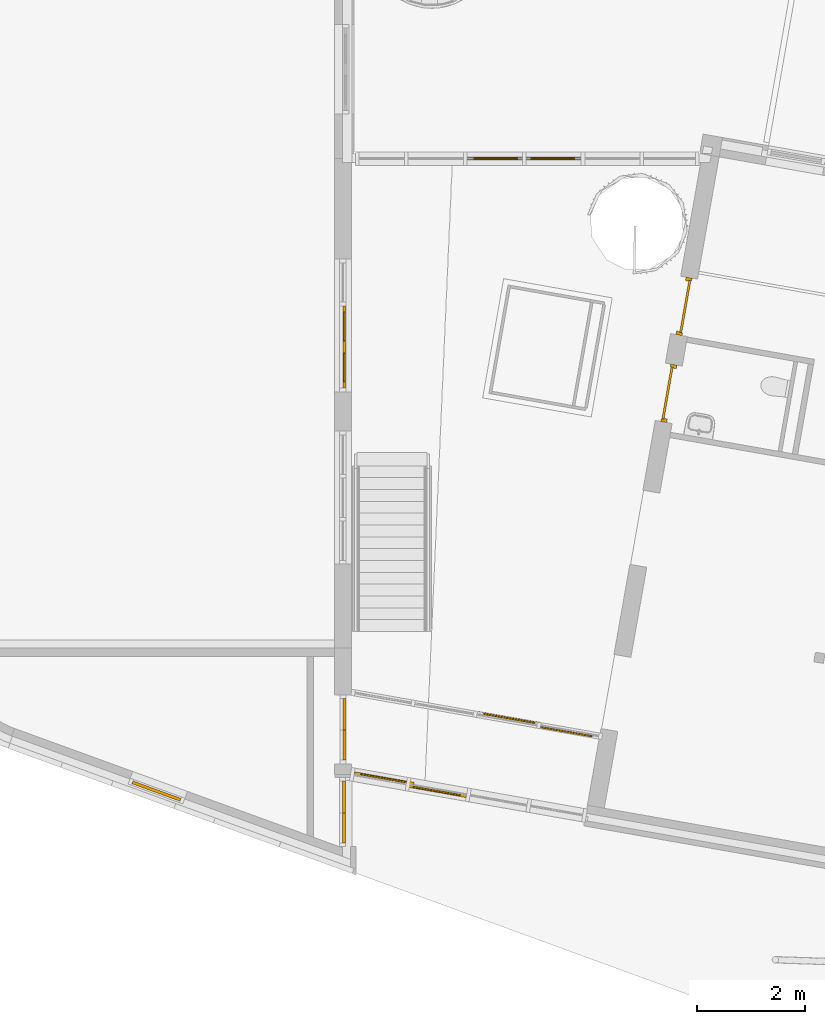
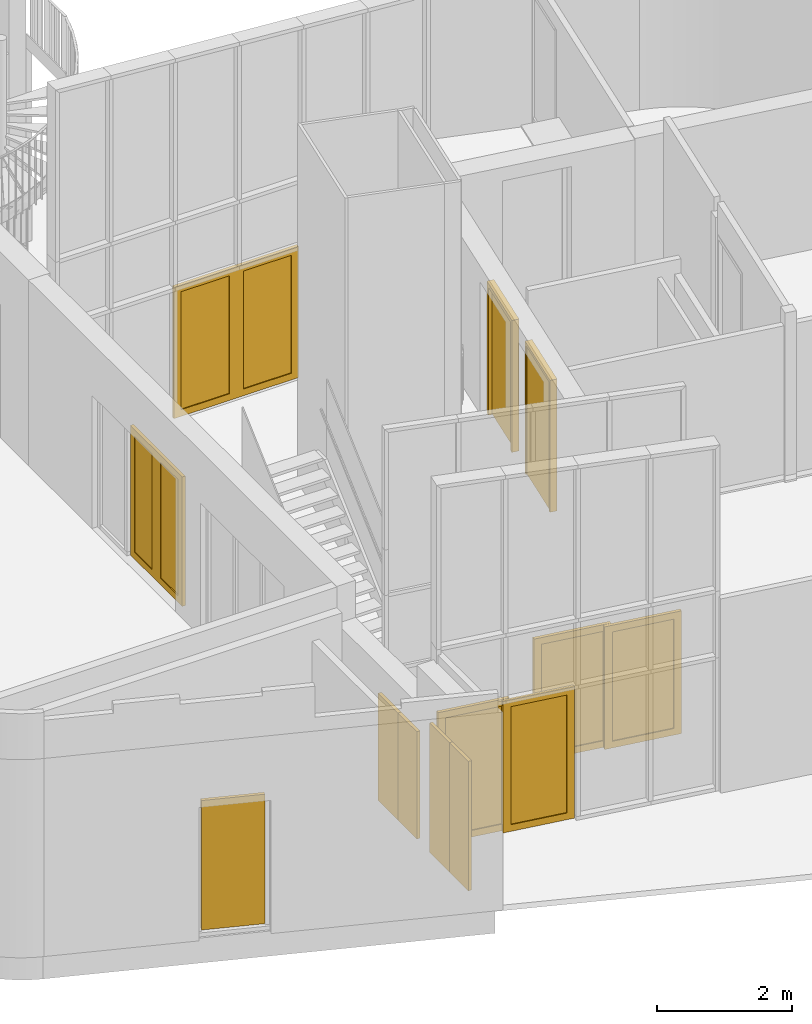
# One storey, part 17 of 21: 13 doors, 8 windows, 7 elements without a shape of their own.
"""IFC2X3 building model written with IfcOpenShell, lengths in millimetres."""

from ifc_helpers import new_model, entity, si_unit, converted_unit, derived_unit, direction, frame, frame_2d, origin, origin_2d_with_axis, place, context, subcontext, project, spatial, polyline, rectangle, outline, extrude, faceted_brep, source, transform, mapped, material, type_object, type_shapes, element, aggregate, save


model = new_model("IFC2X3")

# Units and contexts
model_context = context("Model", 3, precision=0.01, world=origin(), true_north=direction((6.12303176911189e-17, 1.0)))
body_context = subcontext(model_context, "Body", "Model", "MODEL_VIEW")
ifc_project = project(units=[si_unit("LENGTHUNIT", "METRE", prefix="MILLI"), si_unit("AREAUNIT", "SQUARE_METRE"), si_unit("VOLUMEUNIT", "CUBIC_METRE"), converted_unit("PLANEANGLEUNIT", "DEGREE", entity("IfcRatioMeasure", 0.0174532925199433), si_unit("PLANEANGLEUNIT", "RADIAN"), dimensions=[0, 0, 0, 0, 0, 0, 0]), si_unit("MASSUNIT", "GRAM", prefix="KILO"), derived_unit("MASSDENSITYUNIT", [(si_unit("MASSUNIT", "GRAM", prefix="KILO"), 1), (si_unit("LENGTHUNIT", "METRE"), -3)]), si_unit("TIMEUNIT", "SECOND"), si_unit("FREQUENCYUNIT", "HERTZ"), si_unit("THERMODYNAMICTEMPERATUREUNIT", "DEGREE_CELSIUS"), derived_unit("THERMALTRANSMITTANCEUNIT", [(si_unit("MASSUNIT", "GRAM", prefix="KILO"), 1), (si_unit("THERMODYNAMICTEMPERATUREUNIT", "KELVIN"), -1), (si_unit("TIMEUNIT", "SECOND"), -3)]), derived_unit("VOLUMETRICFLOWRATEUNIT", [(si_unit("LENGTHUNIT", "METRE"), 3), (si_unit("TIMEUNIT", "SECOND"), -1)]), si_unit("ELECTRICCURRENTUNIT", "AMPERE"), si_unit("ELECTRICVOLTAGEUNIT", "VOLT"), si_unit("POWERUNIT", "WATT"), si_unit("FORCEUNIT", "NEWTON", prefix="KILO"), si_unit("ILLUMINANCEUNIT", "LUX"), si_unit("LUMINOUSFLUXUNIT", "LUMEN"), si_unit("LUMINOUSINTENSITYUNIT", "CANDELA"), derived_unit("USERDEFINED", [(si_unit("MASSUNIT", "GRAM", prefix="KILO"), -1), (si_unit("LENGTHUNIT", "METRE"), -2), (si_unit("TIMEUNIT", "SECOND"), 3), (si_unit("LUMINOUSFLUXUNIT", "LUMEN"), 1)]), derived_unit("LINEARVELOCITYUNIT", [(si_unit("LENGTHUNIT", "METRE"), 1), (si_unit("TIMEUNIT", "SECOND"), -1)]), si_unit("PRESSUREUNIT", "PASCAL"), derived_unit("USERDEFINED", [(si_unit("LENGTHUNIT", "METRE"), -2), (si_unit("MASSUNIT", "GRAM", prefix="KILO"), 1), (si_unit("TIMEUNIT", "SECOND"), -2)])], contexts=[model_context])

# Site, building, storey
site_placement = place(None, origin())
site = spatial("IfcSite", under=ifc_project, at=site_placement, Name="<Kadaster Gemeente>;<Kadaster nummer>;<Kadaster sectie>", CompositionType="ELEMENT")
building_placement = place(site_placement, origin())
building = spatial("IfcBuilding", under=site, at=building_placement, Name="JRCZ Middelburg", CompositionType="ELEMENT")
storey_placement = place(building_placement, origin())
storey = spatial("IfcBuildingStorey", under=building, at=storey_placement, Name="00 begane grond", CompositionType="ELEMENT", Elevation=0.0)

# Curtain wall, door
curtain_wall_type_1 = type_object("IfcCurtainWallType", Name="Curtain Wall:vliesgevel B", PredefinedType="NOTDEFINED")
curtain_wall_1_placement = place(storey_placement, origin())
curtain_wall_1 = element("IfcCurtainWall", 1, at=curtain_wall_1_placement, inside=storey, type_object=curtain_wall_type_1, Name="Curtain Wall:vliesgevel B", ObjectType="Curtain Wall:vliesgevel B")
ifc_material_1 = material(Name="RBM_i2_binnenkozijn")
door_style_1 = type_object("IfcDoorStyle", Name="binnendeur", ConstructionType="NOTDEFINED", OperationType="NOTDEFINED", ParameterTakesPrecedence=False, Sizeable=False, material=ifc_material_1)
shared_shape_1 = source(origin(), body_context, "Body", "SweptSolid", [
    extrude(outline(polyline([(-604.505228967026, -1105.58333333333), (604.505228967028, -1105.58333333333), (604.505228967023, 1105.58333333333), (-604.505228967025, 1105.58333333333), (-604.505228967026, -1105.58333333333)]), holes=[polyline([(-484.505228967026, -985.583333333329), (-484.505228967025, 985.583333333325), (484.505228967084, 985.583333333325), (484.505228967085, -985.58333333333), (-484.505228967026, -985.583333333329)])]), frame((544.50522896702, -54.0, 1105.58333333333), z_axis=(0.0, 1.0, 0.0), x_axis=(1.0, 0.0, 0.0)), (0.0, 0.0, 1.0), 27.0),
    extrude(outline(polyline([(-604.505228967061, -1105.58333333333), (604.505228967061, -1105.58333333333), (604.505228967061, 1105.58333333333), (-604.505228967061, 1105.58333333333), (-604.505228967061, -1105.58333333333)]), holes=[polyline([(-484.50522896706, -985.583333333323), (-484.50522896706, 985.58333333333), (484.505228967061, 985.583333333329), (484.505228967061, -985.583333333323), (-484.50522896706, -985.583333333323)])]), frame((-544.505228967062, 6.0, 1105.58333333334), z_axis=(0.0, 1.0, 0.0), x_axis=(1.0, 0.0, 0.0)), (0.0, 0.0, 1.0), 27.0),
    extrude(outline(polyline([(-604.505228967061, -1105.58333333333), (604.505228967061, -1105.58333333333), (604.505228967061, 1105.58333333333), (-604.505228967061, 1105.58333333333), (-604.505228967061, -1105.58333333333)]), holes=[polyline([(-484.50522896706, -985.583333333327), (-484.50522896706, 985.583333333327), (484.505228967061, 985.583333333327), (484.505228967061, -985.583333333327), (-484.50522896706, -985.583333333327)])]), frame((-544.505228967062, 33.0, 1105.58333333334), z_axis=(0.0, 1.0, 0.0), x_axis=(1.0, 0.0, 0.0)), (0.0, 0.0, 1.0), 27.0000000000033),
    extrude(outline(polyline([(-604.505228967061, -1105.58333333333), (604.505228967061, -1105.58333333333), (604.505228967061, 1105.58333333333), (-604.505228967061, 1105.58333333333), (-604.505228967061, -1105.58333333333)]), holes=[polyline([(-484.505228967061, -985.583333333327), (-484.505228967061, 985.583333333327), (484.505228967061, 985.583333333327), (484.505228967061, -985.583333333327), (-484.505228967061, -985.583333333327)])]), frame((544.505228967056, -27.0, 1105.58333333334), z_axis=(0.0, 1.0, 0.0), x_axis=(1.0, 0.0, 0.0)), (0.0, 0.0, 1.0), 26.9999999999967),
])
type_shapes(door_style_1, [shared_shape_1])
door_1_placement = place(curtain_wall_1_placement, frame((20829.4661139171, 8567.01360204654, 0.0), z_axis=(0.0, 0.0, 1.0), x_axis=(0.984807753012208, -0.173648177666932, 0.0)))
door_1 = element("IfcDoor", 2, at=door_1_placement, type_object=door_style_1, material=ifc_material_1, Name="31_DO_schuifdeur_1:binnendeur", ObjectType="31_DO_schuifdeur_1:binnendeur", OverallHeight=2211.16666666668, OverallWidth=2298.02091586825, context=body_context, shape_type="MappedRepresentation", body=[
    mapped(shared_shape_1, transform((0.0, 0.0, 0.0), scale=1.0)),
])
aggregate(curtain_wall_1, [door_1])

curtain_wall_type_2 = type_object("IfcCurtainWallType", Name="Curtain Wall:NLRS_32_CW_067x114", PredefinedType="NOTDEFINED")
curtain_wall_2_placement = place(storey_placement, origin())
curtain_wall_2 = element("IfcCurtainWall", 3, at=curtain_wall_2_placement, inside=storey, type_object=curtain_wall_type_2, Name="Curtain Wall:NLRS_32_CW_067x114", ObjectType="Curtain Wall:NLRS_32_CW_067x114")
door_style_2 = type_object("IfcDoorStyle", Name="0std binnendeur", ConstructionType="NOTDEFINED", OperationType="NOTDEFINED", ParameterTakesPrecedence=False, Sizeable=False)
shared_shape_2 = source(origin(), body_context, "Body", "SweptSolid", [
    extrude(outline(polyline([(-383.249999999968, -1166.5), (383.249999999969, -1166.5), (383.249999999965, 1166.5), (-383.249999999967, 1166.5), (-383.249999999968, -1166.5)]), holes=[polyline([(-263.249999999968, -1046.49999999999), (-263.249999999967, 1046.49999999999), (263.250000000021, 1046.49999999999), (263.250000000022, -1046.49999999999), (-263.249999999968, -1046.49999999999)])]), frame((383.25000015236, -54.0, 1166.5), z_axis=(0.0, 1.0, 0.0), x_axis=(1.0, 0.0, 0.0)), (0.0, 0.0, 1.0), 27.0),
    extrude(outline(polyline([(-383.250000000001, -1166.5), (383.25, -1166.5), (383.250000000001, 1166.5), (-383.25, 1166.5), (-383.250000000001, -1166.5)]), holes=[polyline([(-263.250000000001, -1046.49999999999), (-263.25, 1046.5), (263.250000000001, 1046.5), (263.25, -1046.49999999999), (-263.250000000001, -1046.49999999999)])]), frame((-383.250000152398, -54.0, 1166.5), z_axis=(0.0, 1.0, 0.0), x_axis=(1.0, 0.0, 0.0)), (0.0, 0.0, 1.0), 27.0),
    extrude(outline(polyline([(-383.250000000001, -1166.5), (383.25, -1166.5), (383.250000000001, 1166.5), (-383.25, 1166.5), (-383.250000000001, -1166.5)]), holes=[polyline([(-263.250000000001, -1046.49999999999), (-263.25, 1046.49999999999), (263.250000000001, 1046.49999999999), (263.25, -1046.49999999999), (-263.250000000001, -1046.49999999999)])]), frame((-383.250000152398, -27.0, 1166.5), z_axis=(0.0, 1.0, 0.0), x_axis=(1.0, 0.0, 0.0)), (0.0, 0.0, 1.0), 27.0000000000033),
    extrude(outline(polyline([(-383.250000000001, -1166.5), (383.25, -1166.5), (383.250000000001, 1166.5), (-383.25, 1166.5), (-383.250000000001, -1166.5)]), holes=[polyline([(-263.250000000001, -1046.49999999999), (-263.25, 1046.49999999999), (263.250000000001, 1046.49999999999), (263.250000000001, -1046.49999999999), (-263.250000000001, -1046.49999999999)])]), frame((383.250000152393, -27.0, 1166.5), z_axis=(0.0, 1.0, 0.0), x_axis=(1.0, 0.0, 0.0)), (0.0, 0.0, 1.0), 26.9999999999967),
])
type_shapes(door_style_2, [shared_shape_2])
door_2_placement = place(curtain_wall_2_placement, frame((17203.0, 15600.0, 0.0), z_axis=(0.0, 0.0, 1.0), x_axis=(0.0, 1.0, 0.0)))
door_2 = element("IfcDoor", 4, at=door_2_placement, type_object=door_style_2, Name="31_DO_stolpdeur_1:0std binnendeur", ObjectType="31_DO_stolpdeur_1:0std binnendeur", OverallHeight=2333.00000000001, OverallWidth=1533.00000030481, context=body_context, shape_type="MappedRepresentation", body=[
    mapped(shared_shape_2, transform((0.0, 0.0, 0.0), scale=1.0)),
])
aggregate(curtain_wall_2, [door_2])

# Windows
ifc_material_2 = material(Name="o1_glas")
window_style_1 = type_object("IfcWindowStyle", Name="glas 2", ConstructionType="NOTDEFINED", OperationType="NOTDEFINED", ParameterTakesPrecedence=False, Sizeable=False, material=ifc_material_2)
shared_shape_3 = source(origin(), body_context, "Body", "SweptSolid", [
    extrude(rectangle(XDim=526.500000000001, YDim=24.0000000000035, at=origin_2d_with_axis()), origin(), (0.0, 0.0, 1.0), 2092.99999999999),
])
type_shapes(window_style_1, [shared_shape_3])
for number, where, z_axis, x_axis, name in (
    (5, (17230.0, 15983.25, 120.0), (0.0, 0.0, 1.0), (0.0, 1.0, 0.0), "WI_subvak:glas 2"),
    (6, (17230.0, 15216.7499996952, 120.0), (0.0, 0.0, 1.0), (0.0, 1.0, 0.0), "WI_subvak:glas 2"),
):
    element("IfcWindow", number, at=place(storey_placement, frame(where, z_axis=z_axis, x_axis=x_axis)), inside=storey, type_object=window_style_1, material=ifc_material_2, Name=name, ObjectType="WI_subvak:glas 2", OverallHeight=2172.99999999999, OverallWidth=526.500000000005, context=body_context, shape_type="MappedRepresentation", body=[
        mapped(shared_shape_3, transform((0.0, 0.0, 0.0), scale=1.0)),
    ])

# Doors
door_style_3 = type_object("IfcDoorStyle", Name="enkele deur_gen", ConstructionType="USERDEFINED", OperationType="NOTDEFINED", ParameterTakesPrecedence=False, Sizeable=False)
shared_shape_4 = source(origin(), body_context, "Body", "Brep", [
    faceted_brep([(492.0, 0.0, 0.0), (492.0, 54.0, 0.0), (475.0, 54.0, 0.0), (475.0, 114.0, 0.0), (542.0, 114.0, 0.0), (542.0, 0.0, 0.0), (492.0, 0.0, 2327.0), (492.0, 54.0, 2327.0), (492.0, 54.0, 2310.0), (475.0, 54.0, 2310.0), (475.0, 114.0, 2310.0), (542.0, 114.0, 2310.0), (542.0, 54.0, 2310.0), (542.0, 54.0, 2327.0), (542.0, 0.0, 2327.0)], [[[0, 1, 2, 3, 4, 5]], [[6, 7, 8, 1, 0]], [[2, 1, 8, 9]], [[3, 2, 9, 10]], [[4, 3, 10, 11]], [[5, 4, 11, 12, 13, 14]], [[14, 6, 0, 5]], [[6, 14, 13, 7]], [[8, 12, 11, 10, 9]], [[12, 8, 7, 13]]]),
    faceted_brep([(-542.0, 0.0, 2327.0), (-542.0, 0.0, 2377.0), (-542.0, 114.0, 2377.0), (-542.0, 114.0, 2310.0), (-542.0, 54.0, 2310.0), (-542.0, 54.0, 2327.0), (542.0, 0.0, 2327.0), (542.0, 54.0, 2327.0), (542.0, 54.0, 2310.0), (542.0, 114.0, 2310.0), (542.0, 114.0, 2377.0), (542.0, 0.0, 2377.0)], [[[0, 1, 2, 3, 4, 5]], [[6, 7, 8, 9, 10, 11]], [[5, 7, 6, 0]], [[4, 8, 7, 5]], [[3, 9, 8, 4]], [[2, 10, 9, 3]], [[1, 11, 10, 2]], [[0, 6, 11, 1]]]),
    faceted_brep([(-492.0, 0.0, 0.0), (-542.0, 0.0, 0.0), (-542.0, 114.0, 0.0), (-475.0, 114.0, 0.0), (-475.0, 54.0, 0.0), (-492.0, 54.0, 0.0), (-492.0, 0.0, 2327.0), (-492.0, 54.0, 2310.0), (-492.0, 54.0, 2327.0), (-475.0, 54.0, 2310.0), (-475.0, 114.0, 2310.0), (-542.0, 114.0, 2310.0), (-542.0, 0.0, 2327.0), (-542.0, 54.0, 2327.0), (-542.0, 54.0, 2310.0)], [[[0, 1, 2, 3, 4, 5]], [[6, 0, 5, 7, 8]], [[4, 9, 7, 5]], [[3, 10, 9, 4]], [[2, 11, 10, 3]], [[1, 12, 13, 14, 11, 2]], [[12, 1, 0, 6]], [[6, 8, 13, 12]], [[7, 9, 10, 11, 14]], [[14, 13, 8, 7]]]),
])
type_shapes(door_style_3, [shared_shape_4])
for number, where, z_axis, x_axis in (
    (7, (23605.4826461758, 16346.1458893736, 0.0), (0.0, 0.0, 1.0), (0.17364817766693, 0.984807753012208, 0.0)),
    (8, (23208.0842545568, 14748.8874509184, 0.0), (0.0, 0.0, 1.0), (-0.17364817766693, -0.984807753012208, 0.0)),
):
    element("IfcDoor", number, at=place(storey_placement, frame(where, z_axis=z_axis, x_axis=x_axis)), inside=storey, type_object=door_style_3, Name="NLRS_32_DO_UN_samenstelling binnenkozijn hout-SH_generiek_ISR:enkele deur_gen", ObjectType="NLRS_32_DO_UN_samenstelling binnenkozijn hout-SH_generiek_ISR:enkele deur_gen", OverallHeight=2377.00000000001, OverallWidth=1084.0, context=body_context, shape_type="MappedRepresentation", body=[
        mapped(shared_shape_4, transform((0.0, 0.0, 0.0), scale=1.0)),
    ])
door_style_4 = type_object("IfcDoorStyle", Name="dichte deur_gen", ConstructionType="USERDEFINED", OperationType="NOTDEFINED", ParameterTakesPrecedence=False, Sizeable=False)
shared_shape_5 = source(origin(), body_context, "Body", "SweptSolid", [
    extrude(rectangle(XDim=979.999999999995, YDim=40.0, at=origin_2d_with_axis()), frame((0.0, 20.0, 0.0), z_axis=(0.0, 0.0, 1.0), x_axis=(-1.0, 0.0, 0.0)), (0.0, 0.0, 1.0), 2315.0),
])
type_shapes(door_style_4, [shared_shape_5])
for number, where, z_axis, x_axis in (
    (9, (23591.6953376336, 16348.5769638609, 10.0), (0.0, 0.0, 1.0), (0.17364817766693, 0.984807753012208, 0.0)),
    (10, (23221.871563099, 14746.456376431, 10.0), (0.0, 0.0, 1.0), (-0.17364817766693, -0.984807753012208, 0.0)),
):
    element("IfcDoor", number, at=place(storey_placement, frame(where, z_axis=z_axis, x_axis=x_axis)), inside=storey, type_object=door_style_4, Name="NLRS_32_DO_ISR_onderdeel deur-SH_generiek_ISR:dichte deur_gen", ObjectType="NLRS_32_DO_ISR_onderdeel deur-SH_generiek_ISR:dichte deur_gen", OverallHeight=2315.0, OverallWidth=980.000000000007, context=body_context, shape_type="MappedRepresentation", body=[
        mapped(shared_shape_5, transform((0.0, 0.0, 0.0), scale=1.0)),
    ])

# Curtain wall, doors
curtain_wall_3_placement = place(storey_placement, origin())
curtain_wall_3 = element("IfcCurtainWall", 11, at=curtain_wall_3_placement, inside=storey, type_object=curtain_wall_type_2, Name="Curtain Wall:NLRS_32_CW_067x114", ObjectType="Curtain Wall:NLRS_32_CW_067x114")
door_style_5 = type_object("IfcDoorStyle", Name="binnendeur", ConstructionType="NOTDEFINED", OperationType="NOTDEFINED", ParameterTakesPrecedence=False, Sizeable=False)
shared_shape_6 = source(origin(), body_context, "Body", "SweptSolid", [
    extrude(rectangle(XDim=557.549538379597, YDim=26.9999999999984, at=frame_2d((0.0, -1.77635683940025e-15), x_axis=(1.0, 0.0))), frame((0.0, -40.4999999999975, 0.0), z_axis=(0.0, 0.0, 1.0), x_axis=(-1.0, 0.0, 0.0)), (0.0, 0.0, 1.0), 1933.00000000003),
    extrude(rectangle(XDim=557.549538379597, YDim=26.9999999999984, at=origin_2d_with_axis()), frame((0.0, -13.4999999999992, 0.0), z_axis=(0.0, 0.0, 1.0), x_axis=(-1.0, 0.0, 0.0)), (0.0, 0.0, 1.0), 1933.00000000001),
])
type_shapes(door_style_5, [shared_shape_6])
door_3_placement = place(curtain_wall_3_placement, frame((17209.2500000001, 8194.51555521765, 0.0), z_axis=(0.0, 0.0, 1.0), x_axis=(0.0, 1.0, 0.0)))
door_3 = element("IfcDoor", 12, at=door_3_placement, type_object=door_style_5, Name="31_DO_deur_0:binnendeur", ObjectType="31_DO_deur_0:binnendeur", OverallHeight=1933.00000000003, OverallWidth=557.549538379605, context=body_context, shape_type="MappedRepresentation", body=[
    mapped(shared_shape_6, transform((0.0, 0.0, 0.0), scale=1.0)),
])
door_style_6 = type_object("IfcDoorStyle", Name="binnendeur", ConstructionType="NOTDEFINED", OperationType="NOTDEFINED", ParameterTakesPrecedence=False, Sizeable=False)
shared_shape_7 = source(origin(), body_context, "Body", "SweptSolid", [
    extrude(rectangle(XDim=588.450461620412, YDim=26.9999999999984, at=frame_2d((0.0, -1.77635683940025e-15), x_axis=(1.0, 0.0))), frame((0.0, -40.4999999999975, 0.0), z_axis=(0.0, 0.0, 1.0), x_axis=(-1.0, 0.0, 0.0)), (0.0, 0.0, 1.0), 1933.00000000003),
    extrude(rectangle(XDim=588.450461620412, YDim=26.9999999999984, at=origin_2d_with_axis()), frame((0.0, -13.4999999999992, 0.0), z_axis=(0.0, 0.0, 1.0), x_axis=(-1.0, 0.0, 0.0)), (0.0, 0.0, 1.0), 1933.00000000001),
])
type_shapes(door_style_6, [shared_shape_7])
door_4_placement = place(curtain_wall_3_placement, frame((17209.2500000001, 8767.51555521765, 0.0), z_axis=(0.0, 0.0, 1.0), x_axis=(0.0, 1.0, 0.0)))
door_4 = element("IfcDoor", 13, at=door_4_placement, type_object=door_style_6, Name="31_DO_deur_0:binnendeur", ObjectType="31_DO_deur_0:binnendeur", OverallHeight=1933.00000000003, OverallWidth=588.45046162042, context=body_context, shape_type="MappedRepresentation", body=[
    mapped(shared_shape_7, transform((0.0, 0.0, 0.0), scale=1.0)),
])
aggregate(curtain_wall_3, [door_3, door_4])

# Curtain wall, door
curtain_wall_type_3 = type_object("IfcCurtainWallType", Name="Curtain Wall:Vliesgevel C", PredefinedType="NOTDEFINED")
curtain_wall_4_placement = place(storey_placement, origin())
curtain_wall_4 = element("IfcCurtainWall", 14, at=curtain_wall_4_placement, inside=storey, type_object=curtain_wall_type_3, Name="Curtain Wall:Vliesgevel C", ObjectType="Curtain Wall:Vliesgevel C")
ifc_material_3 = material(Name="RBM_a_kozijn licht")
door_style_7 = type_object("IfcDoorStyle", Name="0std", ConstructionType="NOTDEFINED", OperationType="NOTDEFINED", ParameterTakesPrecedence=False, Sizeable=False, material=ifc_material_3)
shared_shape_8 = source(origin(), body_context, "Body", "SweptSolid", [
    extrude(outline(polyline([(-530.613549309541, -1183.25), (530.613549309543, -1183.25), (530.613549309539, 1183.25), (-530.613549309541, 1183.25), (-530.613549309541, -1183.25)]), holes=[polyline([(-410.613549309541, -1063.25), (-410.61354930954, 1063.24999999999), (410.613549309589, 1063.24999999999), (410.61354930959, -1063.25), (-410.613549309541, -1063.25)])]), frame((530.613549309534, 57.0, 1183.25), z_axis=(0.0, 1.0, 0.0), x_axis=(1.0, 0.0, 0.0)), (0.0, 0.0, 1.0), 27.0),
    extrude(outline(polyline([(-530.613549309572, -1183.25), (530.613549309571, -1183.25), (530.613549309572, 1183.25), (-530.613549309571, 1183.25), (-530.613549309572, -1183.25)]), holes=[polyline([(-410.613549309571, -1063.24999999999), (-410.613549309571, 1063.24999999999), (410.613549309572, 1063.25), (410.613549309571, -1063.24999999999), (-410.613549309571, -1063.24999999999)])]), frame((-530.61354930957, 57.0, 1183.25), z_axis=(0.0, 1.0, 0.0), x_axis=(1.0, 0.0, 0.0)), (0.0, 0.0, 1.0), 27.0),
    extrude(outline(polyline([(-530.613549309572, -1183.25), (530.613549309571, -1183.25), (530.613549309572, 1183.25), (-530.613549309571, 1183.25), (-530.613549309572, -1183.25)]), holes=[polyline([(-410.613549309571, -1063.24999999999), (-410.613549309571, 1063.24999999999), (410.613549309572, 1063.24999999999), (410.613549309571, -1063.24999999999), (-410.613549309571, -1063.24999999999)])]), frame((-530.61354930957, 30.0, 1183.25), z_axis=(0.0, 1.0, 0.0), x_axis=(1.0, 0.0, 0.0)), (0.0, 0.0, 1.0), 27.0000000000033),
    extrude(outline(polyline([(-530.613549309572, -1183.25), (530.613549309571, -1183.25), (530.613549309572, 1183.25), (-530.613549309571, 1183.25), (-530.613549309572, -1183.25)]), holes=[polyline([(-410.613549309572, -1063.24999999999), (-410.613549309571, 1063.24999999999), (410.613549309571, 1063.24999999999), (410.613549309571, -1063.24999999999), (-410.613549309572, -1063.24999999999)])]), frame((530.613549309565, 30.0, 1183.25), z_axis=(0.0, 1.0, 0.0), x_axis=(1.0, 0.0, 0.0)), (0.0, 0.0, 1.0), 26.9999999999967),
])
type_shapes(door_style_7, [shared_shape_8])
door_5_placement = place(curtain_wall_4_placement, frame((20575.883832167, 19046.62338787, 0.0)))
door_5 = element("IfcDoor", 15, at=door_5_placement, type_object=door_style_7, material=ifc_material_3, Name="31_DO_stolpdeur_1:0std", ObjectType="31_DO_stolpdeur_1:0std", OverallHeight=2366.50000000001, OverallWidth=2122.45419723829, context=body_context, shape_type="MappedRepresentation", body=[
    mapped(shared_shape_8, transform((0.0, 0.0, 0.0), scale=1.0)),
])
aggregate(curtain_wall_4, [door_5])

# Windows
window_style_2 = type_object("IfcWindowStyle", Name="glas 2", ConstructionType="NOTDEFINED", OperationType="NOTDEFINED", ParameterTakesPrecedence=False, Sizeable=False, material=ifc_material_2)
shared_shape_9 = source(origin(), body_context, "Body", "SweptSolid", [
    extrude(rectangle(XDim=24.0000000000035, YDim=821.227098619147, at=frame_2d((0.0, -2.8421709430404e-14), x_axis=(1.0, 0.0))), frame((0.0, 0.0, 0.0), z_axis=(0.0, 0.0, 1.0), x_axis=(0.0, -1.0, 0.0)), (0.0, 0.0, 1.0), 2126.49999999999),
])
type_shapes(window_style_2, [shared_shape_9])
for number, where, name in (
    (16, (21106.4973814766, 19103.62338787, 120.0), "WI_subvak:glas 2"),
    (17, (20045.2702828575, 19103.62338787, 120.0), "WI_subvak:glas 2"),
):
    element("IfcWindow", number, at=place(storey_placement, frame(where)), inside=storey, type_object=window_style_2, material=ifc_material_2, Name=name, ObjectType="WI_subvak:glas 2", OverallHeight=2206.49999999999, OverallWidth=821.227098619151, context=body_context, shape_type="MappedRepresentation", body=[
        mapped(shared_shape_9, transform((0.0, 0.0, 0.0), scale=1.0)),
    ])

# Curtain wall, doors
curtain_wall_type_4 = type_object("IfcCurtainWallType", Name="Curtain Wall:NLRS_32_CW_067x114", PredefinedType="NOTDEFINED")
curtain_wall_5_placement = place(storey_placement, origin())
curtain_wall_5 = element("IfcCurtainWall", 18, at=curtain_wall_5_placement, inside=storey, type_object=curtain_wall_type_4, Name="Curtain Wall:NLRS_32_CW_067x114", ObjectType="Curtain Wall:NLRS_32_CW_067x114")
door_style_8 = type_object("IfcDoorStyle", Name="binnendeur 2", ConstructionType="NOTDEFINED", OperationType="NOTDEFINED", ParameterTakesPrecedence=False, Sizeable=False)
shared_shape_10 = source(origin(), body_context, "Body", "SweptSolid", [
    extrude(rectangle(XDim=557.549538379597, YDim=26.9999999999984, at=frame_2d((0.0, -1.77635683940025e-15), x_axis=(1.0, 0.0))), frame((0.0, -40.4999999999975, 0.0), z_axis=(0.0, 0.0, 1.0), x_axis=(-1.0, 0.0, 0.0)), (0.0, 0.0, 1.0), 2333.00000000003),
    extrude(rectangle(XDim=557.549538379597, YDim=26.9999999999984, at=origin_2d_with_axis()), frame((0.0, -13.4999999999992, 0.0), z_axis=(0.0, 0.0, 1.0), x_axis=(-1.0, 0.0, 0.0)), (0.0, 0.0, 1.0), 2333.00000000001),
])
type_shapes(door_style_8, [shared_shape_10])
door_6_placement = place(curtain_wall_5_placement, frame((17200.0, 6657.73693264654, 0.0), z_axis=(0.0, 0.0, 1.0), x_axis=(0.0, 1.0, 0.0)))
door_6 = element("IfcDoor", 19, at=door_6_placement, type_object=door_style_8, Name="31_DO_deur_0:binnendeur 2", ObjectType="31_DO_deur_0:binnendeur 2", OverallHeight=2333.00000000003, OverallWidth=557.549538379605, context=body_context, shape_type="MappedRepresentation", body=[
    mapped(shared_shape_10, transform((0.0, 0.0, 0.0), scale=1.0)),
])
door_style_9 = type_object("IfcDoorStyle", Name="binnendeur 2", ConstructionType="NOTDEFINED", OperationType="NOTDEFINED", ParameterTakesPrecedence=False, Sizeable=False)
shared_shape_11 = source(origin(), body_context, "Body", "SweptSolid", [
    extrude(rectangle(XDim=588.450461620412, YDim=26.9999999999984, at=frame_2d((0.0, -1.77635683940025e-15), x_axis=(1.0, 0.0))), frame((0.0, -40.4999999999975, 0.0), z_axis=(0.0, 0.0, 1.0), x_axis=(-1.0, 0.0, 0.0)), (0.0, 0.0, 1.0), 2333.00000000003),
    extrude(rectangle(XDim=588.450461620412, YDim=26.9999999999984, at=origin_2d_with_axis()), frame((0.0, -13.4999999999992, 0.0), z_axis=(0.0, 0.0, 1.0), x_axis=(-1.0, 0.0, 0.0)), (0.0, 0.0, 1.0), 2333.00000000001),
])
type_shapes(door_style_9, [shared_shape_11])
door_7_placement = place(curtain_wall_5_placement, frame((17200.0, 7230.73693264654, 0.0), z_axis=(0.0, 0.0, 1.0), x_axis=(0.0, 1.0, 0.0)))
door_7 = element("IfcDoor", 20, at=door_7_placement, type_object=door_style_9, Name="31_DO_deur_0:binnendeur 2", ObjectType="31_DO_deur_0:binnendeur 2", OverallHeight=2333.00000000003, OverallWidth=588.45046162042, context=body_context, shape_type="MappedRepresentation", body=[
    mapped(shared_shape_11, transform((0.0, 0.0, 0.0), scale=1.0)),
])
aggregate(curtain_wall_5, [door_6, door_7])

# Curtain wall, door
curtain_wall_type_5 = type_object("IfcCurtainWallType", Name="Curtain Wall:NLRS_31_CW_Ontwerpkozijn 067x114", PredefinedType="NOTDEFINED")
curtain_wall_6_placement = place(storey_placement, origin())
curtain_wall_6 = element("IfcCurtainWall", 21, at=curtain_wall_6_placement, inside=storey, type_object=curtain_wall_type_5, Name="Curtain Wall:NLRS_31_CW_Ontwerpkozijn 067x114", ObjectType="Curtain Wall:NLRS_31_CW_Ontwerpkozijn 067x114")
ifc_material_4 = material(Name="RBM_a_deur_paneel")
door_style_10 = type_object("IfcDoorStyle", Name="deur", ConstructionType="NOTDEFINED", OperationType="NOTDEFINED", ParameterTakesPrecedence=False, Sizeable=False, material=ifc_material_4)
shared_shape_12 = source(origin(), body_context, "Body", "SweptSolid", [
    extrude(rectangle(XDim=950.000000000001, YDim=27.0, at=origin_2d_with_axis()), frame((0.0, -70.4999999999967, 0.0), z_axis=(0.0, 0.0, 1.0), x_axis=(-1.0, 0.0, 0.0)), (0.0, 0.0, 1.0), 2333.00000000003),
    extrude(rectangle(XDim=950.000000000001, YDim=26.9999999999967, at=origin_2d_with_axis()), frame((0.0, -43.4999999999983, 0.0), z_axis=(0.0, 0.0, 1.0), x_axis=(-1.0, 0.0, 0.0)), (0.0, 0.0, 1.0), 2333.00000000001),
])
type_shapes(door_style_10, [shared_shape_12])
door_8_placement = place(curtain_wall_6_placement, frame((13758.6113184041, 7394.88942708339, 0.0), z_axis=(0.0, 0.0, 1.0), x_axis=(0.939692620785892, -0.342020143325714, 0.0)))
door_8 = element("IfcDoor", 22, at=door_8_placement, type_object=door_style_10, material=ifc_material_4, Name="31_DO_deur_0:deur", ObjectType="31_DO_deur_0:deur", OverallHeight=2333.00000000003, OverallWidth=950.00000000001, context=body_context, shape_type="MappedRepresentation", body=[
    mapped(shared_shape_12, transform((0.0, 0.0, 0.0), scale=1.0)),
])
aggregate(curtain_wall_6, [door_8])

# Windows
window_style_3 = type_object("IfcWindowStyle", Name="glas 2", ConstructionType="NOTDEFINED", OperationType="NOTDEFINED", ParameterTakesPrecedence=False, Sizeable=False, material=ifc_material_2)
shared_shape_13 = source(origin(), body_context, "Body", "SweptSolid", [
    extrude(rectangle(XDim=969.010457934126, YDim=24.0000000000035, at=frame_2d((0.0, -8.88178419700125e-16), x_axis=(1.0, 0.0))), origin(), (0.0, 0.0, 1.0), 1971.16666666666),
])
type_shapes(window_style_3, [shared_shape_13])
for number, where, z_axis, x_axis, name in (
    (23, (21361.0105841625, 8445.87145197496, 120.0), (0.0, 0.0, 1.0), (0.984807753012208, -0.173648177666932, 0.0), "WI_subvak:glas 2"),
    (24, (20298.9635327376, 8694.06459863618, 120.0), (0.0, 0.0, 1.0), (0.984807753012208, -0.173648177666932, 0.0), "WI_subvak:glas 2"),
):
    element("IfcWindow", number, at=place(storey_placement, frame(where, z_axis=z_axis, x_axis=x_axis)), inside=storey, type_object=window_style_3, material=ifc_material_2, Name=name, ObjectType="WI_subvak:glas 2", OverallHeight=2051.16666666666, OverallWidth=969.01045793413, context=body_context, shape_type="MappedRepresentation", body=[
        mapped(shared_shape_13, transform((0.0, 0.0, 0.0), scale=1.0)),
    ])

# Curtain wall, door
curtain_wall_type_6 = type_object("IfcCurtainWallType", Name="Curtain Wall:vliesgevel A", PredefinedType="NOTDEFINED")
curtain_wall_7_placement = place(storey_placement, origin())
curtain_wall_7 = element("IfcCurtainWall", 25, at=curtain_wall_7_placement, inside=storey, type_object=curtain_wall_type_6, Name="Curtain Wall:vliesgevel A", ObjectType="Curtain Wall:vliesgevel A")
door_style_11 = type_object("IfcDoorStyle", Name="deur", ConstructionType="NOTDEFINED", OperationType="NOTDEFINED", ParameterTakesPrecedence=False, Sizeable=False, material=ifc_material_3)
shared_shape_14 = source(origin(), body_context, "Body", "SweptSolid", [
    extrude(outline(polyline([(-561.174066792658, -1183.25), (561.17406679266, -1183.25), (561.174066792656, 1183.25), (-561.174066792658, 1183.25), (-561.174066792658, -1183.25)]), holes=[polyline([(-441.174066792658, -1063.25), (-441.174066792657, 1063.24999999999), (441.174066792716, 1063.24999999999), (441.174066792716, -1063.25), (-441.174066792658, -1063.25)])]), frame((501.174066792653, 27.0, 1183.25), z_axis=(0.0, 1.0, 0.0), x_axis=(1.0, 0.0, 0.0)), (0.0, 0.0, 1.0), 27.0),
    extrude(outline(polyline([(-561.174066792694, -1183.25), (561.174066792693, -1183.25), (561.174066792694, 1183.25), (-561.174066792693, 1183.25), (-561.174066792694, -1183.25)]), holes=[polyline([(-441.174066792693, -1063.24999999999), (-441.174066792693, 1063.25), (441.174066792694, 1063.24999999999), (441.174066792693, -1063.24999999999), (-441.174066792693, -1063.24999999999)])]), frame((-501.174066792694, 87.0, 1183.25), z_axis=(0.0, 1.0, 0.0), x_axis=(1.0, 0.0, 0.0)), (0.0, 0.0, 1.0), 27.0),
    extrude(outline(polyline([(-561.174066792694, -1183.25), (561.174066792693, -1183.25), (561.174066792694, 1183.25), (-561.174066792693, 1183.25), (-561.174066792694, -1183.25)]), holes=[polyline([(-441.174066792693, -1063.24999999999), (-441.174066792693, 1063.24999999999), (441.174066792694, 1063.24999999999), (441.174066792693, -1063.24999999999), (-441.174066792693, -1063.24999999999)])]), frame((-501.174066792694, 60.0, 1183.25), z_axis=(0.0, 1.0, 0.0), x_axis=(1.0, 0.0, 0.0)), (0.0, 0.0, 1.0), 27.0000000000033),
    extrude(outline(polyline([(-561.174066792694, -1183.25), (561.174066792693, -1183.25), (561.174066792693, 1183.25), (-561.174066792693, 1183.25), (-561.174066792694, -1183.25)]), holes=[polyline([(-441.174066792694, -1063.24999999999), (-441.174066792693, 1063.24999999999), (441.174066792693, 1063.24999999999), (441.174066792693, -1063.24999999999), (-441.174066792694, -1063.24999999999)])]), frame((501.174066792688, 0.0, 1183.25), z_axis=(0.0, 1.0, 0.0), x_axis=(1.0, 0.0, 0.0)), (0.0, 0.0, 1.0), 26.9999999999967),
])
type_shapes(door_style_11, [shared_shape_14])
door_9_placement = place(curtain_wall_7_placement, frame((18469.5502779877, 7516.8544085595, 0.0), z_axis=(0.0, 0.0, 1.0), x_axis=(-0.984807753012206, 0.173648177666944, 0.0)))
door_9 = element("IfcDoor", 26, at=door_9_placement, type_object=door_style_11, material=ifc_material_3, Name="31_DO_schuifdeur_1:deur", ObjectType="31_DO_schuifdeur_1:deur", OverallHeight=2366.50000000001, OverallWidth=2124.69626717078, context=body_context, shape_type="MappedRepresentation", body=[
    mapped(shared_shape_14, transform((0.0, 0.0, 0.0), scale=1.0)),
])
aggregate(curtain_wall_7, [door_9])

# Windows
window_style_4 = type_object("IfcWindowStyle", Name="glas 2", ConstructionType="NOTDEFINED", OperationType="NOTDEFINED", ParameterTakesPrecedence=False, Sizeable=False, material=ifc_material_2)
shared_shape_15 = source(origin(), body_context, "Body", "SweptSolid", [
    extrude(rectangle(XDim=24.0000000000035, YDim=882.34813358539, at=frame_2d((0.0, 2.8421709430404e-14), x_axis=(1.0, 0.0))), frame((0.0, 0.0, 0.0), z_axis=(0.0, 0.0, 1.0), x_axis=(0.0, -1.0, 0.0)), (0.0, 0.0, 1.0), 2126.49999999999),
])
type_shapes(window_style_4, [shared_shape_15])
for number, where, z_axis, x_axis, name in (
    (27, (17971.3016706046, 7577.29256262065, 120.0), (0.0, 0.0, 1.0), (-0.984807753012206, 0.173648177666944, 0.0), "WI_subvak:glas 2"),
    (28, (18948.0029931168, 7344.14817065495, 120.0), (0.0, 0.0, 1.0), (-0.984807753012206, 0.173648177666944, 0.0), "WI_subvak:glas 2"),
):
    element("IfcWindow", number, at=place(storey_placement, frame(where, z_axis=z_axis, x_axis=x_axis)), inside=storey, type_object=window_style_4, material=ifc_material_2, Name=name, ObjectType="WI_subvak:glas 2", OverallHeight=2206.49999999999, OverallWidth=882.348133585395, context=body_context, shape_type="MappedRepresentation", body=[
        mapped(shared_shape_15, transform((0.0, 0.0, 0.0), scale=1.0)),
    ])

save(model, "model.ifc")
